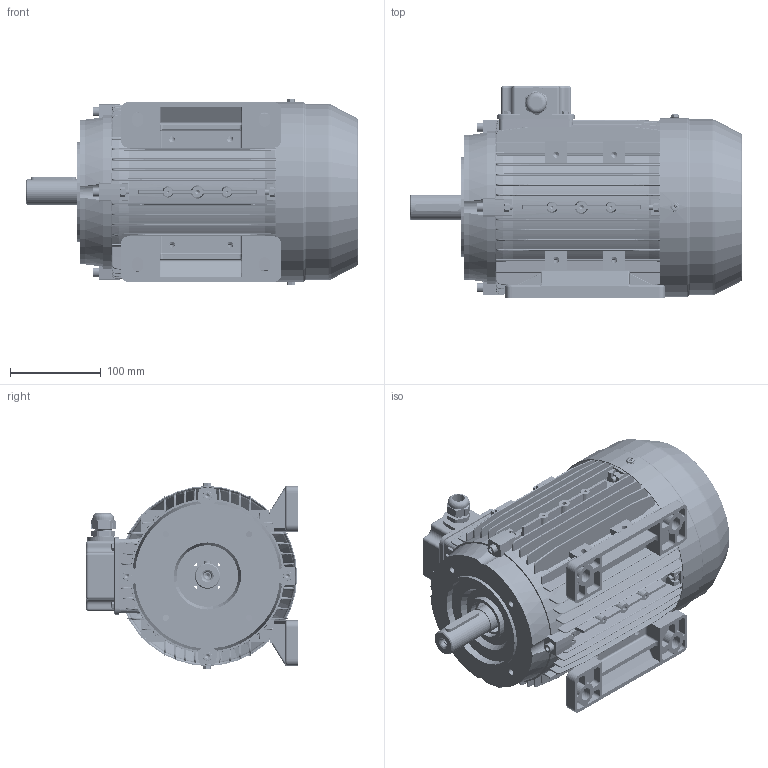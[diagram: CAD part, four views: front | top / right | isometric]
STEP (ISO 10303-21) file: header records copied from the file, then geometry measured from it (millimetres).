
FILE_DESCRIPTION (( 'STEP AP203' ), '1' );
FILE_NAME ('MSL100S assembly B34.STEP', '2017-11-26T09:57:22', ( 'user' ), ( 'china' ), 'SwSTEP 2.0', 'SolidWorks 2016', '' );
FILE_SCHEMA (( 'CONFIG_CONTROL_DESIGN' ));
Length unit declared in the file: millimetre
Products named in the file (16): M100瑞欶_090; GB-T 29.2-1988 M4鞠褒坋趼湍菜_05; M20 cable gland; MSL80-90堤盄碟蚾饜; MSL80-90堤盄碟_MSL80-90; M100傷裔B14; GB-T 5780-2000 M6_035; M100菁褐; MSL100S assembly B34; M100儂褲_M100S; GB-T 29.2-1988 M5鞠褒坋趼湍菜_08; GB-T 70.1-2000 M6_34; MS100 綴裔瑞欶郪磁_90; M100傷裔_NonDriveEnd; GB-T 41-2000 M6; M100-Shaft drive end
Assembly tree (34 placements, depth 3):
  MSL100S assembly B34
    M100儂褲_M100S
    M100菁褐  x2
    M100-Shaft drive end
    MS100 綴裔瑞欶郪磁_90
      M100傷裔_NonDriveEnd
      M100瑞欶_090
      GB-T 29.2-1988 M5鞠褒坋趼湍菜_08  x3
    GB-T 41-2000 M6  x8
    GB-T 70.1-2000 M6_34  x4
    GB-T 5780-2000 M6_035  x4
    MSL80-90堤盄碟蚾饜
      MSL80-90堤盄碟_MSL80-90
      GB-T 29.2-1988 M4鞠褒坋趼湍菜_05  x4
      M20 cable gland
    M100傷裔B14
Bounding box: 366 x 234 x 205 mm (x, y, z)
Volume: 1561539.8 mm3; surface area: 911086.1 mm2
Topology: 32 solids, 32 shells, 5351 faces, 13837 edges, 8589 vertices
Faces by surface type: plane 2002, cylinder 1468, cone 1138, bspline 578, torus 153, sphere 12
Entity records: 156327 total; most frequent: CARTESIAN_POINT 64172, ORIENTED_EDGE 20016, DIRECTION 17040, EDGE_CURVE 10008, VERTEX_POINT 6375, AXIS2_PLACEMENT_3D 5863, VECTOR 5314, LINE 5314
